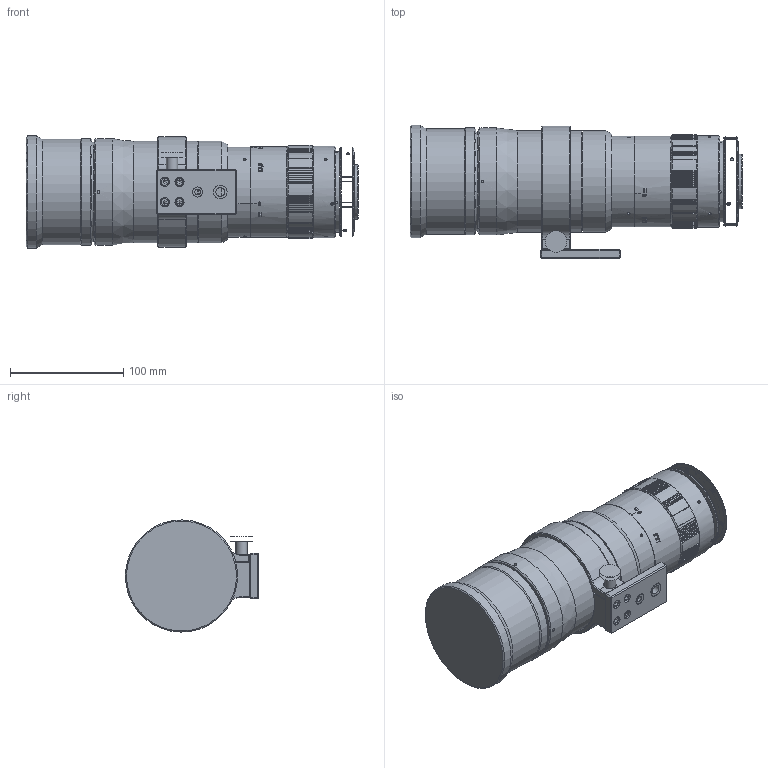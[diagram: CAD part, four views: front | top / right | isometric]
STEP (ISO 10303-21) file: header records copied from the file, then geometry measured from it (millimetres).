
FILE_DESCRIPTION((''),'2;1');
FILE_NAME('C:\Documents and Settings\tbosotti\Desktop\C0245_021.stp','2014-04-28T11:51:54',('tbosotti'),(''),'Autodesk Inventor 2010','Autodesk Inventor 2010','');
FILE_SCHEMA(('AUTOMOTIVE_DESIGN { 1 0 10303 214 1 1 1 1 }'));
Length unit declared in the file: millimetre
Products named in the file (2): C0245_021_000.iam (Livello di dettaglio sostituto1); C0245_021
Assembly tree (1 placements, depth 2):
  C0245_021_000.iam (Livello di dettaglio sostituto1)
    C0245_021
Bounding box: 292.9 x 117.49 x 98.99 mm (x, y, z)
Surface area: 192083.5 mm2 (no closed solid volume)
Topology: 0 solids, 39 shells, 315 faces, 2795 edges, 2462 vertices
Faces by surface type: plane 189, cone 68, cylinder 39, bspline 18, sphere 1
Full cylindrical faces by diameter (mm): 2.459 x1, 4.978 x1, 7.798 x1, 10 x1, 48 x1, 69.5 x1, 70.5 x1, 71.5 x1, 72.5 x1, 80.5 x2, 81 x1, 82.6 x1, 85.8 x1, 88 x2, 89.8 x2, 93 x1, 94.4 x2, 99 x1
Entity records: 30386 total; most frequent: CARTESIAN_POINT 14056, ORIENTED_EDGE 3172, DIRECTION 2751, EDGE_CURVE 2713, VERTEX_POINT 2441, AXIS2_PLACEMENT_3D 1127, CIRCLE 827, VECTOR 497
